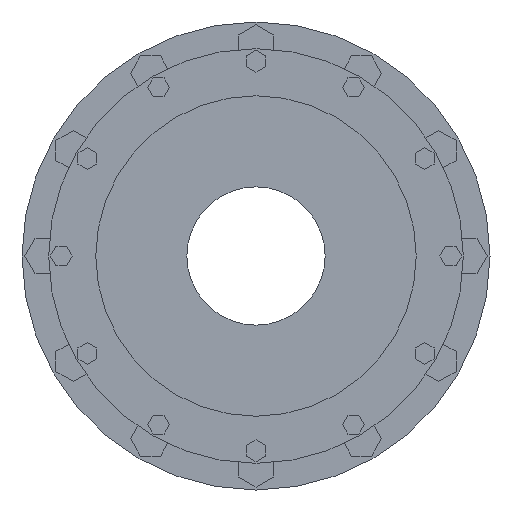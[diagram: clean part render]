
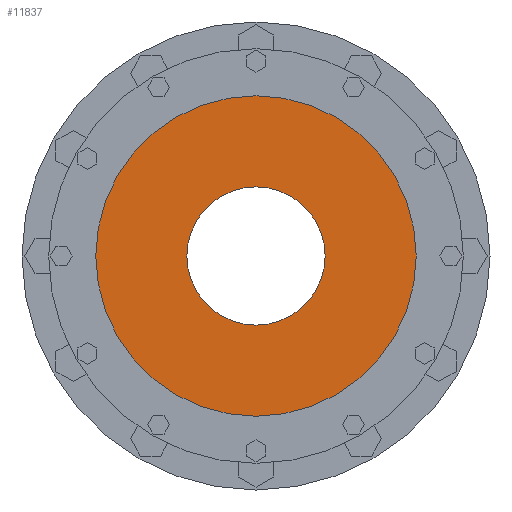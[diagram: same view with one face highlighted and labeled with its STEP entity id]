
A CAD part, left-side view. The second image highlights one B-rep face of the part: STEP entity #11837.
In plain terms, the highlighted planar face has unit normal (-1, 0, 0) as drawn and (1, 0, 0) by its records, which use the part's own axes.
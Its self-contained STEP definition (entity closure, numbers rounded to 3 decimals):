
#11661=CARTESIAN_POINT('',(-10.,0.,0.));
#11662=DIRECTION('',(1.,0.,0.));
#11663=DIRECTION('',(0.,1.,0.));
#11664=AXIS2_PLACEMENT_3D('',#11661,#11662,#11663);
#11671=CARTESIAN_POINT('',(-10.,0.,0.));
#11672=DIRECTION('',(-1.,0.,0.));
#11673=DIRECTION('',(0.,1.,0.));
#11674=AXIS2_PLACEMENT_3D('',#11671,#11672,#11673);
#11676=CARTESIAN_POINT('',(-10.,0.,0.));
#11677=DIRECTION('',(1.,0.,0.));
#11678=DIRECTION('',(0.,1.,0.));
#11679=AXIS2_PLACEMENT_3D('',#11676,#11677,#11678);
#11755=CARTESIAN_POINT('',(-10.,0.,0.));
#11756=DIRECTION('',(1.,0.,0.));
#11757=DIRECTION('',(0.,-1.,0.));
#11758=AXIS2_PLACEMENT_3D('',#11755,#11756,#11757);
#11782=CARTESIAN_POINT('',(-10.,255.,0.));
#11784=VERTEX_POINT('',#11782);
#11786=CARTESIAN_POINT('',(-10.,-255.,0.));
#11788=VERTEX_POINT('',#11786);
#11793=CARTESIAN_POINT('',(-10.,110.,0.));
#11794=CARTESIAN_POINT('',(-10.,-110.,0.));
#11795=VERTEX_POINT('',#11793);
#11796=VERTEX_POINT('',#11794);
#11821=CARTESIAN_POINT('',(-10.,0.,0.));
#11822=DIRECTION('',(1.,0.,0.));
#11823=DIRECTION('',(0.,-1.,0.));
#11824=AXIS2_PLACEMENT_3D('',#11821,#11822,#11823);
#11825=PLANE('',#11824);
#11827=ORIENTED_EDGE('',*,*,#11826,.T.);
#11829=ORIENTED_EDGE('',*,*,#11828,.F.);
#11830=EDGE_LOOP('',(#11827,#11829));
#11831=FACE_OUTER_BOUND('',#11830,.F.);
#11832=ORIENTED_EDGE('',*,*,#11810,.T.);
#11834=ORIENTED_EDGE('',*,*,#11833,.T.);
#11835=EDGE_LOOP('',(#11832,#11834));
#11836=FACE_BOUND('',#11835,.F.);
#11837=ADVANCED_FACE('',(#11831,#11836),#11825,.T.);
#11665=CIRCLE('',#11664,110.);
#11675=CIRCLE('',#11674,255.);
#11680=CIRCLE('',#11679,255.);
#11759=CIRCLE('',#11758,110.);
#11810=EDGE_CURVE('',#11795,#11796,#11665,.T.);
#11826=EDGE_CURVE('',#11784,#11788,#11675,.T.);
#11828=EDGE_CURVE('',#11784,#11788,#11680,.T.);
#11833=EDGE_CURVE('',#11796,#11795,#11759,.T.);
